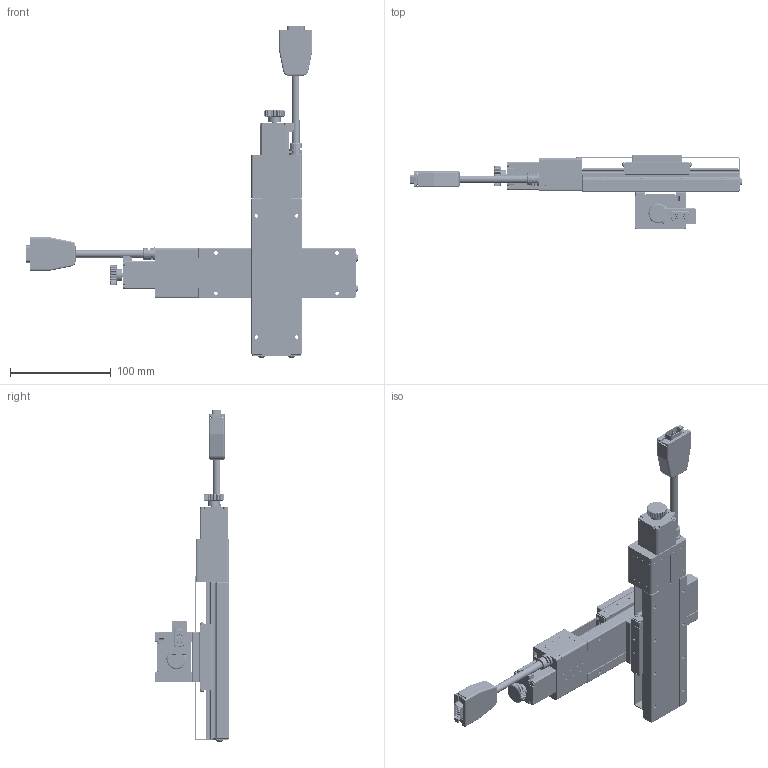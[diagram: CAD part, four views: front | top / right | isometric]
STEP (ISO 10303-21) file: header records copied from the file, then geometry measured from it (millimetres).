
FILE_DESCRIPTION (( 'STEP AP203' ), '1' );
FILE_NAME ('CYC5075.STEP', '2023-11-28T01:20:15', ( '' ), ( '' ), 'SwSTEP 2.0', 'SolidWorks 2019', '' );
FILE_SCHEMA (( 'CONFIG_CONTROL_DESIGN' ));
Products named in the file (11): CXC50-102-10; SC03B008_SUS304(鍍鋅黑); SG02B004_SCM435(化鎳); CYC5075; Group1^CXN5075-S2?N(2023新版)_defeature_GMT; SD04B006_SD04B006-SCM435(化鎳); CXC5075-S2OPAN-303_50; Group2^CXN5075-S2?N(2023新版)_defeature_GMT; Group1^CYC5075-S2?N(2023新版)_defeature_GMT; CXN5075-S2?N(2023新版)_defeature; Group2^CYC5075-S2?N(2023新版)_defeature_GMT
Assembly tree (27 placements, depth 3):
  CYC5075
    Group1^CYC5075-S2?N(2023新版)_defeature_GMT
    Group2^CYC5075-S2?N(2023新版)_defeature_GMT
    SD04B006_SD04B006-SCM435(化鎳)  x4
    CXC5075-S2OPAN-303_50  x2
    CXC50-102-10  x4
    SC03B008_SUS304(鍍鋅黑)  x8
    SG02B004_SCM435(化鎳)  x4
    CXN5075-S2?N(2023新版)_defeature
      Group1^CXN5075-S2?N(2023新版)_defeature_GMT
      Group2^CXN5075-S2?N(2023新版)_defeature_GMT
Bounding box: 328.8 x 74 x 328.8 mm (x, y, z)
Volume: 88231.3 mm3; surface area: 219019.3 mm2
Topology: 26 solids, 36 shells, 13934 faces, 36012 edges, 22270 vertices
Faces by surface type: plane 6470, cylinder 2964, bspline 2932, torus 784, cone 440, sphere 344
Entity records: 452687 total; most frequent: CARTESIAN_POINT 152935, ORIENTED_EDGE 68056, DIRECTION 51904, EDGE_CURVE 34028, VERTEX_POINT 21344, VECTOR 17438, LINE 17438, AXIS2_PLACEMENT_3D 17233
